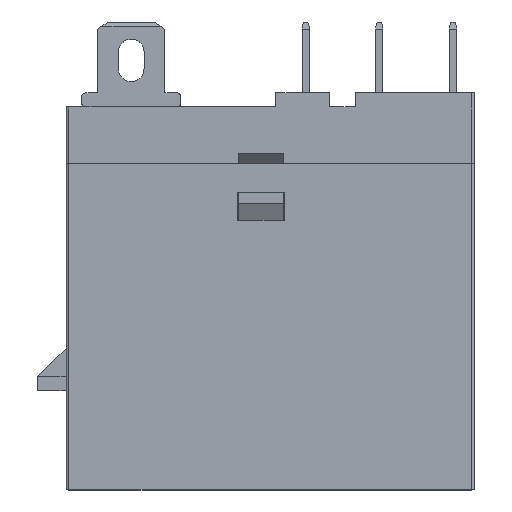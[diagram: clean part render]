
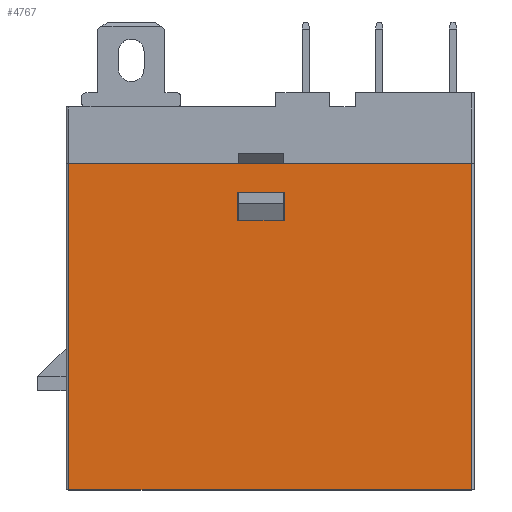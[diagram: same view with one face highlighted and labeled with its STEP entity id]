
A CAD part, top view. The second image highlights one B-rep face of the part: STEP entity #4767.
In plain terms, the highlighted planar face has unit normal (0, 0, 1) as drawn and (0, 0, -1) by its records, which use the part's own axes.
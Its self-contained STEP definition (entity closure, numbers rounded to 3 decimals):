
#181 = EDGE_CURVE ( 'NONE', #29415, #23543, #33641, .T. ) ;
#316 = EDGE_CURVE ( 'NONE', #29415, #2908, #38518, .T. ) ;
#470 = ORIENTED_EDGE ( 'NONE', *, *, #2882, .F. ) ;
#2293 = CARTESIAN_POINT ( 'NONE',  ( 14.2, 23., -6.35 ) ) ;
#2616 = VERTEX_POINT ( 'NONE', #32247 ) ;
#2882 = EDGE_CURVE ( 'NONE', #18695, #4911, #5606, .T. ) ;
#2908 = VERTEX_POINT ( 'NONE', #16429 ) ;
#2976 = CARTESIAN_POINT ( 'NONE',  ( -14.2, 0., -6.35 ) ) ;
#3390 = CARTESIAN_POINT ( 'NONE',  ( -14.2, 22.3, -6.35 ) ) ;
#4142 = FACE_OUTER_BOUND ( 'NONE', #40765, .T. ) ;
#4767 = ADVANCED_FACE ( 'NONE', ( #36769, #4142 ), #42981, .F. ) ;
#4880 = DIRECTION ( 'NONE',  ( 1., 0., 0. ) ) ;
#4911 = VERTEX_POINT ( 'NONE', #43629 ) ;
#5503 = VECTOR ( 'NONE', #9902, 1000. ) ;
#5606 = LINE ( 'NONE', #37241, #32268 ) ;
#5678 = CARTESIAN_POINT ( 'NONE',  ( -2.3, 4., -6.35 ) ) ;
#5878 = VECTOR ( 'NONE', #28168, 1000. ) ;
#6894 = DIRECTION ( 'NONE',  ( 0., 1., 0. ) ) ;
#7239 = CARTESIAN_POINT ( 'NONE',  ( 1., 2., -6.35 ) ) ;
#8575 = DIRECTION ( 'NONE',  ( 0., -1., 0. ) ) ;
#8629 = CARTESIAN_POINT ( 'NONE',  ( 1., 2., -6.35 ) ) ;
#9078 = CARTESIAN_POINT ( 'NONE',  ( 14.2, 22.3, -6.35 ) ) ;
#9374 = DIRECTION ( 'NONE',  ( 1., 0., 0. ) ) ;
#9902 = DIRECTION ( 'NONE',  ( 0., 1., 0. ) ) ;
#10261 = VECTOR ( 'NONE', #8575, 1000. ) ;
#11629 = LINE ( 'NONE', #3390, #29070 ) ;
#13368 = VECTOR ( 'NONE', #41420, 1000. ) ;
#14907 = ORIENTED_EDGE ( 'NONE', *, *, #316, .T. ) ;
#15916 = ORIENTED_EDGE ( 'NONE', *, *, #18174, .F. ) ;
#16429 = CARTESIAN_POINT ( 'NONE',  ( 14.2, 0., -6.35 ) ) ;
#16792 = EDGE_LOOP ( 'NONE', ( #41298, #470, #39498, #15916 ) ) ;
#18174 = EDGE_CURVE ( 'NONE', #33803, #2616, #28838, .T. ) ;
#18581 = EDGE_CURVE ( 'NONE', #4911, #33803, #38024, .T. ) ;
#18695 = VERTEX_POINT ( 'NONE', #5678 ) ;
#18977 = VECTOR ( 'NONE', #36941, 1000. ) ;
#21108 = EDGE_CURVE ( 'NONE', #2908, #23536, #31892, .T. ) ;
#23536 = VERTEX_POINT ( 'NONE', #2976 ) ;
#23543 = VERTEX_POINT ( 'NONE', #23658 ) ;
#23658 = CARTESIAN_POINT ( 'NONE',  ( -14.2, 23., -6.35 ) ) ;
#24142 = CARTESIAN_POINT ( 'NONE',  ( 0., 0., -6.35 ) ) ;
#25700 = DIRECTION ( 'NONE',  ( 0., 0., 1. ) ) ;
#28168 = DIRECTION ( 'NONE',  ( -1., 0., 0. ) ) ;
#28838 = LINE ( 'NONE', #8629, #36982 ) ;
#29070 = VECTOR ( 'NONE', #6894, 1000. ) ;
#29415 = VERTEX_POINT ( 'NONE', #2293 ) ;
#30172 = ORIENTED_EDGE ( 'NONE', *, *, #21108, .T. ) ;
#31111 = ORIENTED_EDGE ( 'NONE', *, *, #44602, .T. ) ;
#31892 = LINE ( 'NONE', #24142, #13368 ) ;
#32247 = CARTESIAN_POINT ( 'NONE',  ( -2.3, 2., -6.35 ) ) ;
#32268 = VECTOR ( 'NONE', #9374, 1000. ) ;
#32542 = CARTESIAN_POINT ( 'NONE',  ( 0., 22.3, -6.35 ) ) ;
#33641 = LINE ( 'NONE', #35895, #5878 ) ;
#33803 = VERTEX_POINT ( 'NONE', #7239 ) ;
#35502 = AXIS2_PLACEMENT_3D ( 'NONE', #32542, #25700, #4880 ) ;
#35895 = CARTESIAN_POINT ( 'NONE',  ( -14.4, 23., -6.35 ) ) ;
#36132 = EDGE_CURVE ( 'NONE', #2616, #18695, #42461, .T. ) ;
#36769 = FACE_BOUND ( 'NONE', #16792, .T. ) ;
#36941 = DIRECTION ( 'NONE',  ( 0., -1., 0. ) ) ;
#36982 = VECTOR ( 'NONE', #43413, 1000. ) ;
#37241 = CARTESIAN_POINT ( 'NONE',  ( -2.3, 4., -6.35 ) ) ;
#38024 = LINE ( 'NONE', #43211, #10261 ) ;
#38518 = LINE ( 'NONE', #9078, #18977 ) ;
#39498 = ORIENTED_EDGE ( 'NONE', *, *, #36132, .F. ) ;
#40765 = EDGE_LOOP ( 'NONE', ( #42737, #14907, #30172, #31111 ) ) ;
#41238 = CARTESIAN_POINT ( 'NONE',  ( -2.3, 4., -6.35 ) ) ;
#41298 = ORIENTED_EDGE ( 'NONE', *, *, #18581, .F. ) ;
#41420 = DIRECTION ( 'NONE',  ( -1., 0., 0. ) ) ;
#42461 = LINE ( 'NONE', #41238, #5503 ) ;
#42737 = ORIENTED_EDGE ( 'NONE', *, *, #181, .F. ) ;
#42981 = PLANE ( 'NONE',  #35502 ) ;
#43211 = CARTESIAN_POINT ( 'NONE',  ( 1., 4., -6.35 ) ) ;
#43413 = DIRECTION ( 'NONE',  ( -1., 0., 0. ) ) ;
#43629 = CARTESIAN_POINT ( 'NONE',  ( 1., 4., -6.35 ) ) ;
#44602 = EDGE_CURVE ( 'NONE', #23536, #23543, #11629, .T. ) ;
